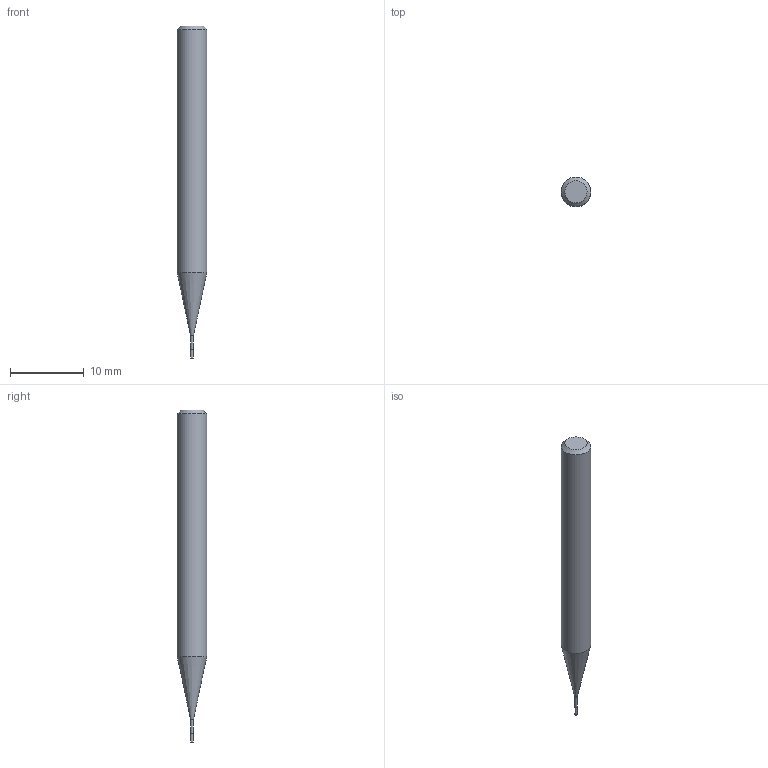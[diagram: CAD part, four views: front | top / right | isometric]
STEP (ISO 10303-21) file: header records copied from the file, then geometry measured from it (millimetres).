
FILE_DESCRIPTION((''),'2;1');
FILE_NAME('C:\Users\nsx150\Desktop\RSE230_20210427\01-00644-00407 RSE230 D0_4X1_2X3.step','2021-05-07T14:52:38',(''),(''),'STEP Write','Mastercam 2021 ... CNC Software, Inc.','');
FILE_SCHEMA(('AUTOMOTIVE_DESIGN'));
Length unit declared in the file: millimetre
Products named in the file (1): None
Bounding box: 4 x 4 x 45 mm (x, y, z)
Volume: 458.8 mm3; surface area: 492.9 mm2
Topology: 2 solids, 2 shells, 9 faces, 12 edges, 7 vertices
Faces by surface type: plane 4, cylinder 3, cone 2
Full cylindrical faces by diameter (mm): 0.37 x1, 0.4 x1, 4 x1
Entity records: 211 total; most frequent: DIRECTION 36, CARTESIAN_POINT 25, AXIS2_PLACEMENT_3D 18, ORIENTED_EDGE 14, EDGE_LOOP 14, STYLED_ITEM 12, ADVANCED_FACE 9, FACE_BOUND 8
